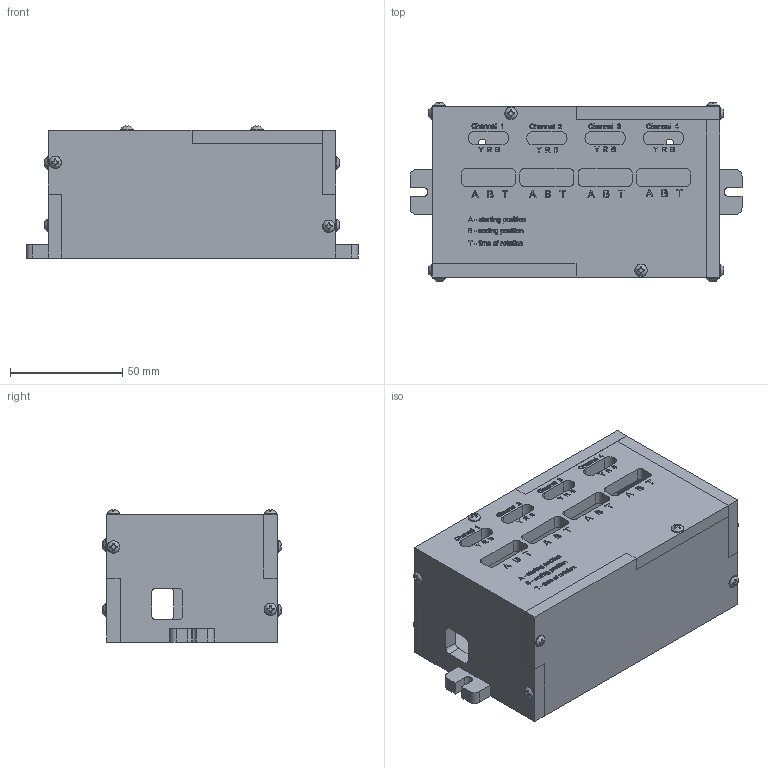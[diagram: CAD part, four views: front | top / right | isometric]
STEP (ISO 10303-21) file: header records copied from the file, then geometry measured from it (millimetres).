
FILE_DESCRIPTION(/* description */ (''),/* implementation_level */ '2;1');
FILE_NAME(/* name */ '/Users/leslieshaw/Desktop/Rack-mount Sensor Fusion Controller.step',/* time_stamp */ '2019-04-08T11:22:20-07:00',/* author */ ('leslieshaw'),/* organization */ (''),/* preprocessor_version */ 'ST-DEVELOPER v17.2',/* originating_system */ 'Autodesk Translation Framework v7.6.0.251',/* authorisation */ '');
FILE_SCHEMA (('AUTOMOTIVE_DESIGN { 1 0 10303 214 3 1 1 }'));
Products named in the file (4): Rack-mount Controller 3D; Component1; 90935A135_PAN HEAD PHILLIPS SCREW FOR SHEET METAL (1); 90033A110_FLAT HEAD PHILLIPS SCREW FOR SHEET METAL
Assembly tree (13 placements, depth 2):
  Rack-mount Controller 3D
    Component1
    90935A135_PAN HEAD PHILLIPS SCREW FOR SHEET METAL (1)  x10
    90033A110_FLAT HEAD PHILLIPS SCREW FOR SHEET METAL  x2
Bounding box: 148 x 79.88 x 58.95 mm (x, y, z)
Volume: 213285.1 mm3; surface area: 89087.7 mm2
Topology: 17 solids, 17 shells, 3204 faces, 8976 edges, 5994 vertices
Faces by surface type: bspline 1558, plane 1231, cylinder 317, cone 74, torus 14, sphere 10
Full cylindrical faces by diameter (mm): 1.699 x114, 2.845 x92, 3 x12, 3.2 x4
Entity records: 96591 total; most frequent: CARTESIAN_POINT 41332, ORIENTED_EDGE 13968, EDGE_CURVE 6984, DIRECTION 6719, VERTEX_POINT 4657, LINE 3997, VECTOR 3997, B_SPLINE_CURVE_WITH_KNOTS 2791
